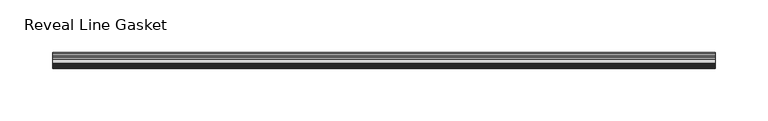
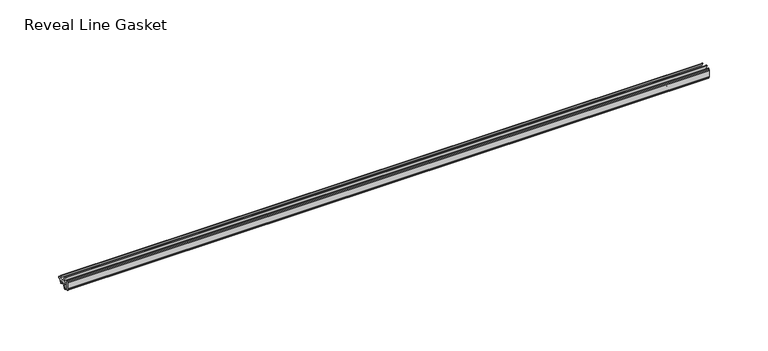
"""IFC4 building model written with IfcOpenShell, lengths in millimetres: proxy geometry, Accessories-Teknion-FHGR-AI_Healthcare-Reveal_Line_Gasket(Horizontal)-R2022 : Reveal Line Gasket."""

import ifcopenshell
import ifcopenshell.guid

model = None  # the IFC model being written
_history = None  # IfcOwnerHistory: only IFC2X3 demands one
_inside = {}  # id of a spatial element -> (the spatial element, [elements in it])
_under = {}  # id of a project, library or spatial element -> (it, [spatial elements below it])
_declared = {}  # id of a project -> (the project, [libraries it declares])
_typed = {}  # id of a type object -> (the type object, [elements of that type])
_made_of = {}  # id of a material, layer set ... -> (it, [elements and type objects made of it])


def new_model(schema):
    """Start an empty IFC model of exactly this schema.

    Asked for "IFC4X3", IfcOpenShell would pick the latest addendum, in which some entities
    have other attributes; the version numbers below select the first issue.
    IFC2X3 requires an IfcOwnerHistory on every rooted entity: one is made here for all.
    """
    global model, _history
    if schema == "IFC4X3":
        model = ifcopenshell.file(schema_version=(4, 3, 0, 0))
    else:
        model = ifcopenshell.file(schema=schema)
    _inside.clear()
    _under.clear()
    _declared.clear()
    _typed.clear()
    _made_of.clear()
    _history = None
    if model.schema == "IFC2X3":
        org = make("IfcOrganization", Name="unknown")
        user = make(
            "IfcPersonAndOrganization",
            ThePerson=make("IfcPerson", FamilyName="unknown"),
            TheOrganization=org,
        )
        app = make(
            "IfcApplication",
            ApplicationDeveloper=org,
            Version="unknown",
            ApplicationFullName="unknown",
            ApplicationIdentifier="unknown",
        )
        _history = make(
            "IfcOwnerHistory",
            OwningUser=user,
            OwningApplication=app,
            ChangeAction="ADDED",
            CreationDate=0,
        )
    return model


def make(cls, **values):
    """One entity of the class cls with the attributes given. An attribute that is None is left unset."""
    return model.create_entity(
        cls, **{name: value for name, value in values.items() if value is not None}
    )


def rooted(cls, **values):
    """An entity with a GlobalId (a new one), such as an element, a storey or a relation."""
    return make(cls, GlobalId=ifcopenshell.guid.new(), OwnerHistory=_history, **values)


def si_unit(unit_type, name, prefix=None):
    """IfcSIUnit, for example si_unit("LENGTHUNIT", "METRE", prefix="MILLI")."""
    return make("IfcSIUnit", UnitType=unit_type, Prefix=prefix, Name=name)


def assignment(units):
    """IfcUnitAssignment: the units of a project."""
    return None if units is None else make("IfcUnitAssignment", Units=units)


def point(xyz):
    """IfcCartesianPoint."""
    return None if xyz is None else make("IfcCartesianPoint", Coordinates=xyz)


def direction(xyz):
    """IfcDirection."""
    return None if xyz is None else make("IfcDirection", DirectionRatios=xyz)


def frame(location, z_axis=None, x_axis=None):
    """IfcAxis2Placement3D, a coordinate frame: its origin and axes. An axis left out is left unset."""
    return make(
        "IfcAxis2Placement3D",
        Location=point(location),
        Axis=direction(z_axis),
        RefDirection=direction(x_axis),
    )


def frame_2d(location, x_axis=None):
    """IfcAxis2Placement2D, a coordinate frame in the plane: its origin and x axis."""
    return make(
        "IfcAxis2Placement2D", Location=point(location), RefDirection=direction(x_axis)
    )


def origin():
    """The frame at (0, 0, 0) with its axes left unset."""
    return frame((0.0, 0.0, 0.0))


def place(relative_to, where):
    """IfcLocalPlacement: puts the frame where relative to a parent placement (None: the world)."""
    return make(
        "IfcLocalPlacement", PlacementRelTo=relative_to, RelativePlacement=where
    )


def context(
    kind, dimensions, precision=None, world=None, true_north=None, identifier=None
):
    """IfcGeometricRepresentationContext, for example the 3D "Model" context."""
    return make(
        "IfcGeometricRepresentationContext",
        ContextIdentifier=identifier,
        ContextType=kind,
        CoordinateSpaceDimension=dimensions,
        Precision=precision,
        WorldCoordinateSystem=world,
        TrueNorth=true_north,
    )


def project(units=None, contexts=None):
    """IfcProject with its units and contexts."""
    return rooted(
        "IfcProject",
        Name="project",
        RepresentationContexts=contexts,
        UnitsInContext=assignment(units),
    )


def spatial(cls, under=None, at=None, **own):
    """A site, building, storey or space (cls), placed at a placement, below another one or the project."""
    s = rooted(cls, ObjectPlacement=at, **own)
    if under is not None:
        _under.setdefault(under.id(), (under, []))[1].append(s)
    return s


def polyline(points):
    """IfcPolyline through the points."""
    return make("IfcPolyline", Points=[point(p) for p in points])


def circle_curve(where, radius):
    """IfcCircle in the frame where."""
    return make("IfcCircle", Position=where, Radius=radius)


def trimmed(basis, trim1, trim2, sense, master):
    """IfcTrimmedCurve: the piece of a basis curve between two trims."""
    return make(
        "IfcTrimmedCurve",
        BasisCurve=basis,
        Trim1=trim1,
        Trim2=trim2,
        SenseAgreement=sense,
        MasterRepresentation=master,
    )


def segment(curve, same_sense, transition):
    """IfcCompositeCurveSegment."""
    return make(
        "IfcCompositeCurveSegment",
        Transition=transition,
        SameSense=same_sense,
        ParentCurve=curve,
    )


def composite_curve(segments, self_intersect=None):
    """IfcCompositeCurve: segments joined end to end."""
    return make("IfcCompositeCurve", Segments=segments, SelfIntersect=self_intersect)


def outline(outer, holes=None, kind="AREA"):
    """IfcArbitraryClosedProfileDef: a profile drawn as a closed curve; with holes, ...WithVoids."""
    if holes is None:
        return make("IfcArbitraryClosedProfileDef", ProfileType=kind, OuterCurve=outer)
    return make(
        "IfcArbitraryProfileDefWithVoids",
        ProfileType=kind,
        OuterCurve=outer,
        InnerCurves=holes,
    )


def extrude(swept, where, along, depth):
    """IfcExtrudedAreaSolid: the profile swept, set in the frame where, extruded along a direction by depth."""
    return make(
        "IfcExtrudedAreaSolid",
        SweptArea=swept,
        Position=where,
        ExtrudedDirection=direction(along),
        Depth=depth,
    )


def shape(context_of_items, identifier, shape_type, items):
    """IfcShapeRepresentation: the items that make up one representation, for example the "Body"."""
    return make(
        "IfcShapeRepresentation",
        ContextOfItems=context_of_items,
        RepresentationIdentifier=identifier,
        RepresentationType=shape_type,
        Items=items,
    )


def source(mapping_origin, context_of_items, identifier, shape_type, items):
    """IfcRepresentationMap: a shape defined once, which mapped items show again and again."""
    return make(
        "IfcRepresentationMap",
        MappingOrigin=mapping_origin,
        MappedRepresentation=shape(context_of_items, identifier, shape_type, items),
    )


def transform(
    local_origin,
    x_axis=None,
    y_axis=None,
    z_axis=None,
    scale=None,
    scale2=None,
    scale3=None,
    uniform=True,
):
    """IfcCartesianTransformationOperator3D, or its non-uniform kind. x_axis, y_axis, z_axis: its Axis1, 2, 3."""
    if uniform:
        return make(
            "IfcCartesianTransformationOperator3D",
            Axis1=direction(x_axis),
            Axis2=direction(y_axis),
            LocalOrigin=point(local_origin),
            Scale=scale,
            Axis3=direction(z_axis),
        )
    return make(
        "IfcCartesianTransformationOperator3DnonUniform",
        Axis1=direction(x_axis),
        Axis2=direction(y_axis),
        LocalOrigin=point(local_origin),
        Scale=scale,
        Axis3=direction(z_axis),
        Scale2=scale2,
        Scale3=scale3,
    )


def mapped(mapping_source, mapping_target):
    """IfcMappedItem: shows the shape of a source again, moved by a transform."""
    return make(
        "IfcMappedItem", MappingSource=mapping_source, MappingTarget=mapping_target
    )


def made_of(thing, what):
    """Note that an element or type object is made of a material, layer set ...; save() writes the relation."""
    if what is not None:
        _made_of.setdefault(what.id(), (what, []))[1].append(thing)
    return thing


def element(
    cls,
    number,
    at=None,
    inside=None,
    cuts=None,
    type_object=None,
    material=None,
    context=None,
    identifier="Body",
    shape_type=None,
    held_by="IfcProductDefinitionShape",
    body=None,
    shapes=None,
    **own,
):
    """One element of the class cls, such as IfcWall. Its Tag is "e" and its number.

    at: its placement. inside: the storey or other place that contains it. cuts: it is an
    opening in that element (IfcRelVoidsElement). A single representation is given by context,
    identifier, shape_type and body (its items); several are given by shapes. held_by: the class
    of the entity that holds the representations. save() writes the other relations.
    """
    e = rooted(cls, Tag="e%d" % number, ObjectPlacement=at, **own)
    if body is not None:
        shapes = [shape(context, identifier, shape_type, body)]
    if shapes is not None:
        e.Representation = make(held_by, Representations=shapes)
    if inside is not None:
        _inside.setdefault(inside.id(), (inside, []))[1].append(e)
    if cuts is not None:
        rooted(
            "IfcRelVoidsElement", RelatingBuildingElement=cuts, RelatedOpeningElement=e
        )
    if type_object is not None:
        _typed.setdefault(type_object.id(), (type_object, []))[1].append(e)
    return made_of(e, material)


def aggregate(whole, parts):
    """IfcRelAggregates: a whole, such as a stair, and the parts it consists of."""
    return rooted("IfcRelAggregates", RelatingObject=whole, RelatedObjects=parts)


def save(model, path):
    """Write the relations noted so far, then the file.

    IfcRelAggregates (storeys below a building ...), IfcRelContainedInSpatialStructure (elements
    in a storey), IfcRelDefinesByType, IfcRelAssociatesMaterial and IfcRelDeclares: one each for
    every whole, place, type object, material and project.
    """
    for whole, parts in _under.values():
        aggregate(whole, parts)
    for where, things in _inside.values():
        rooted(
            "IfcRelContainedInSpatialStructure",
            RelatedElements=things,
            RelatingStructure=where,
        )
    for kind, things in _typed.values():
        rooted("IfcRelDefinesByType", RelatedObjects=things, RelatingType=kind)
    for what, things in _made_of.values():
        rooted("IfcRelAssociatesMaterial", RelatedObjects=things, RelatingMaterial=what)
    for by, libraries in _declared.values():
        rooted("IfcRelDeclares", RelatingContext=by, RelatedDefinitions=libraries)
    model.write(path)


def reveal_line_gasket_e7c8c094(model_context):
    return source(origin(), model_context, "Body", "SweptSolid", [
        extrude(outline(composite_curve([segment(polyline([(-7.6326998, 1603.2), (-7.4091917, 1604.1554927), (-6.8813059, 1605.0884684)]), True, "CONTINUOUS"), segment(trimmed(circle_curve(frame_2d((-6.5243141, 1604.8864793)), 0.4101739), [point((-6.8813059, 1605.0884684))], [point((-6.1246704, 1604.7941347))], False, "CARTESIAN"), True, "CONTINUOUS"), segment(polyline([(-6.1246704, 1604.7941347), (-6.3626997, 1603.0979086), (-6.3626997, 1601.0654527)]), True, "CONTINUOUS"), segment(trimmed(circle_curve(frame_2d((-5.6959605, 1601.4819258)), 0.786124), [point((-6.3626997, 1601.0654527))], [point((-5.0926996, 1600.977875))], True, "CARTESIAN"), True, "CONTINUOUS"), segment(polyline([(-5.0926996, 1600.977875), (-0.7492996, 1600.977875), (-3.7293824, 1606.1395295)]), True, "CONTINUOUS"), segment(trimmed(circle_curve(frame_2d((-3.3132479, 1606.2049761)), 0.4212495), [point((-3.7293824, 1606.1395295))], [point((-3.0485022, 1606.5326358))], False, "CARTESIAN"), True, "CONTINUOUS"), segment(polyline([(-3.0485022, 1606.5326358), (0.5742594, 1600.977875), (4.8262978, 1600.977875), (3.1660374, 1603.8535297)]), True, "CONTINUOUS"), segment(trimmed(circle_curve(frame_2d((3.5978728, 1603.9118855)), 0.4357605), [point((3.1660374, 1603.8535297))], [point((3.864328, 1604.2566881))], False, "CARTESIAN"), True, "CONTINUOUS"), segment(polyline([(3.864328, 1604.2566881), (6.1944059, 1600.977875), (7.6326998, 1600.977875), (7.6326998, 1599.422125), (6.1944059, 1599.422125), (3.864328, 1596.1433119)]), True, "CONTINUOUS"), segment(trimmed(circle_curve(frame_2d((3.5978728, 1596.4881145)), 0.4357605), [point((3.864328, 1596.1433119))], [point((3.1660374, 1596.5464703))], False, "CARTESIAN"), True, "CONTINUOUS"), segment(polyline([(3.1660374, 1596.5464703), (4.8262978, 1599.422125), (0.5742594, 1599.422125), (-3.0485022, 1593.8673642)]), True, "CONTINUOUS"), segment(trimmed(circle_curve(frame_2d((-3.3132479, 1594.1950239)), 0.4212495), [point((-3.0485022, 1593.8673642))], [point((-3.7293824, 1594.2604705))], False, "CARTESIAN"), True, "CONTINUOUS"), segment(polyline([(-3.7293824, 1594.2604705), (-0.7492996, 1599.422125), (-5.0926996, 1599.422125)]), True, "CONTINUOUS"), segment(trimmed(circle_curve(frame_2d((-5.6959605, 1598.9180742)), 0.786124), [point((-5.0926996, 1599.422125))], [point((-6.3626997, 1599.3345473))], True, "CARTESIAN"), True, "CONTINUOUS"), segment(polyline([(-6.3626997, 1599.3345473), (-6.3626997, 1597.3020914), (-6.1246704, 1595.6058653)]), True, "CONTINUOUS"), segment(trimmed(circle_curve(frame_2d((-6.5243141, 1595.5135207)), 0.4101739), [point((-6.1246704, 1595.6058653))], [point((-6.8813059, 1595.3115316))], False, "CARTESIAN"), True, "CONTINUOUS"), segment(polyline([(-6.8813059, 1595.3115316), (-7.4091917, 1596.2445073), (-7.6326998, 1597.2), (-7.6326998, 1603.2)]), True, "CONTINUOUS")], self_intersect=False)), frame((-315.6204, 0.0, 0.0), z_axis=(1.0, 0.0, 0.0), x_axis=(0.0, 1.0, 0.0)), (0.0, 0.0, 1.0), 631.2408),
    ])


if __name__ == "__main__":
    model = new_model("IFC4")
    model_context = context("Model", 3, world=origin())
    ifc_project = project(units=[si_unit("LENGTHUNIT", "METRE", prefix="MILLI")], contexts=[model_context])
    site = spatial("IfcSite", under=ifc_project)
    building = spatial("IfcBuilding", under=site)
    placement = place(None, origin())
    reveal_line_gasket_shape = reveal_line_gasket_e7c8c094(model_context)
    element("IfcBuildingElementProxy", 1, Name="Accessories-Teknion-FHGR-AI_Healthcare-Reveal_Line_Gasket(Horizontal)-R2022 : Reveal Line Gasket", ObjectType="Accessories-Teknion-FHGR-AI_Healthcare-Reveal_Line_Gasket(Horizontal)-R2022 : Reveal Line Gasket", at=placement, inside=building, context=model_context, shape_type="MappedRepresentation", body=[
        mapped(reveal_line_gasket_shape, transform((0.0, 0.0, 0.0), x_axis=(1.0, 0.0, 0.0), y_axis=(0.0, 1.0, 0.0), z_axis=(0.0, 0.0, 1.0))),
    ])
    save(model, "model.ifc")
